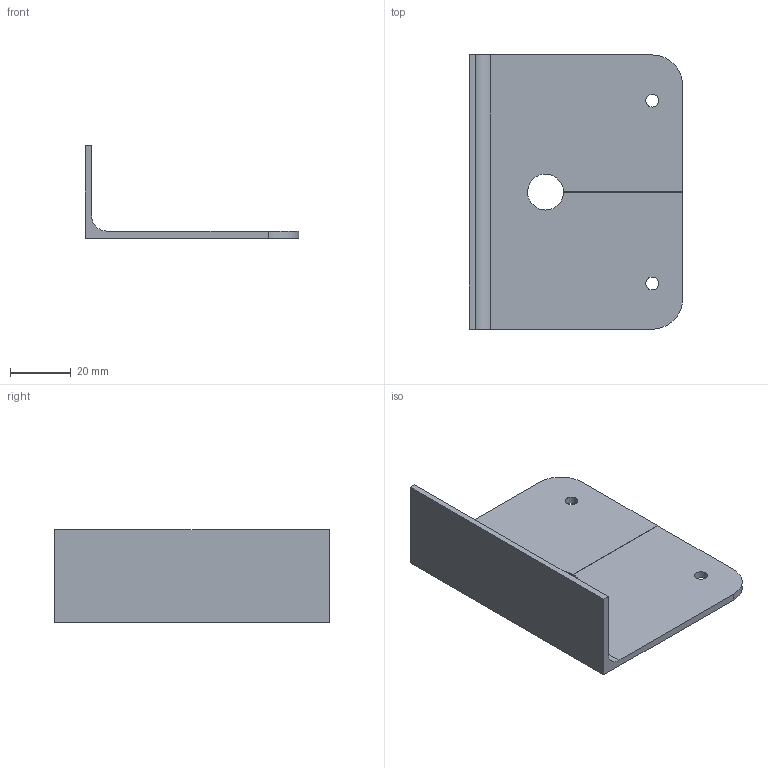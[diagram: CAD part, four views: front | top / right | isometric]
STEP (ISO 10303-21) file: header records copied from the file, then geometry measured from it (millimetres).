
FILE_DESCRIPTION(/* description */ (''),/* implementation_level */ '2;1');
FILE_NAME(/* name */ 'D:/Down/Druck/Kabelwand v6.step',/* time_stamp */ '2022-02-09T16:26:49+07:00',/* author */ (''),/* organization */ (''),/* preprocessor_version */ 'ST-DEVELOPER v18.1',/* originating_system */ 'Autodesk Translation Framework v10.13.0.1454',/* authorisation */ '');
FILE_SCHEMA (('AUTOMOTIVE_DESIGN { 1 0 10303 214 3 1 1 }'));
Length unit declared in the file: millimetre
Products named in the file (1): Kabelwand
Bounding box: 70 x 90 x 30.4 mm (x, y, z)
Volume: 20192.1 mm3; surface area: 18280.4 mm2
Topology: 1 solids, 1 shells, 17 faces, 45 edges, 30 vertices
Faces by surface type: plane 11, cylinder 6
Full cylindrical faces by diameter (mm): 4.2 x2
Entity records: 572 total; most frequent: DIRECTION 93, CARTESIAN_POINT 93, ORIENTED_EDGE 90, EDGE_CURVE 45, LINE 33, VECTOR 33, VERTEX_POINT 30, AXIS2_PLACEMENT_3D 30
